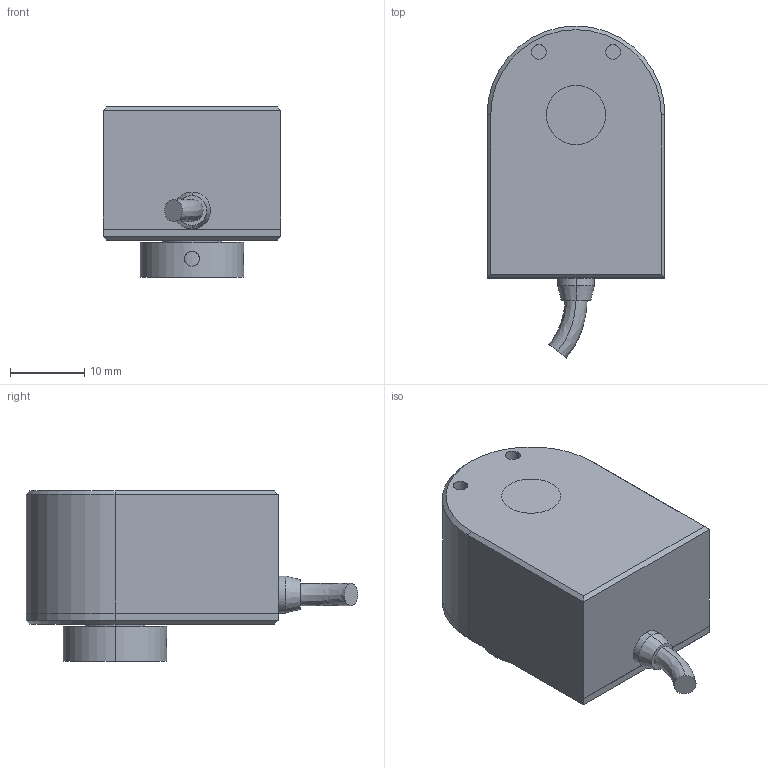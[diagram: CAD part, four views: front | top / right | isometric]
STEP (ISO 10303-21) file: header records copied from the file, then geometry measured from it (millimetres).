
FILE_DESCRIPTION (( 'STEP AP214' ), '1' );
FILE_NAME ('UN_Assem1.STEP', '2024-06-18T01:24:27', ( '' ), ( '' ), 'SwSTEP 2.0', 'SolidWorks 2023', '' );
FILE_SCHEMA (( 'AUTOMOTIVE_DESIGN' ));
Length unit declared in the file: millimetre
Products named in the file (5): UN_Part1; UN_Part3; UN_Part2; UN_Assem1; UN_Part4
Assembly tree (4 placements, depth 2):
  UN_Assem1
    UN_Part1
    UN_Part2
    UN_Part3
    UN_Part4
Bounding box: 24 x 44.77 x 23 mm (x, y, z)
Volume: 14346.9 mm3; surface area: 6518.3 mm2
Topology: 4 solids, 4 shells, 52 faces, 113 edges, 70 vertices
Faces by surface type: plane 24, cylinder 22, cone 4, bspline 2
Entity records: 1787 total; most frequent: CARTESIAN_POINT 470, DIRECTION 261, ORIENTED_EDGE 226, EDGE_CURVE 113, AXIS2_PLACEMENT_3D 101, VERTEX_POINT 70, EDGE_LOOP 63, VECTOR 59
